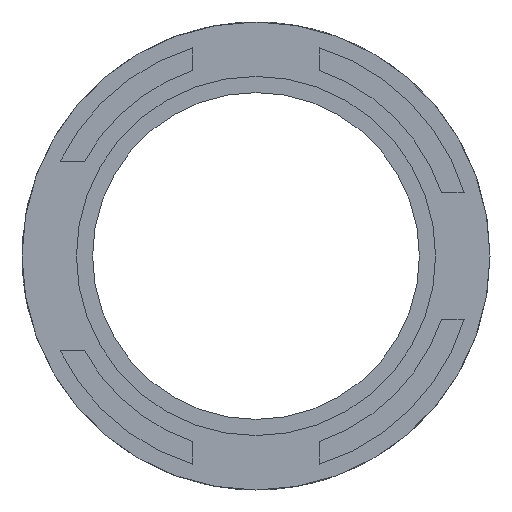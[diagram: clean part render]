
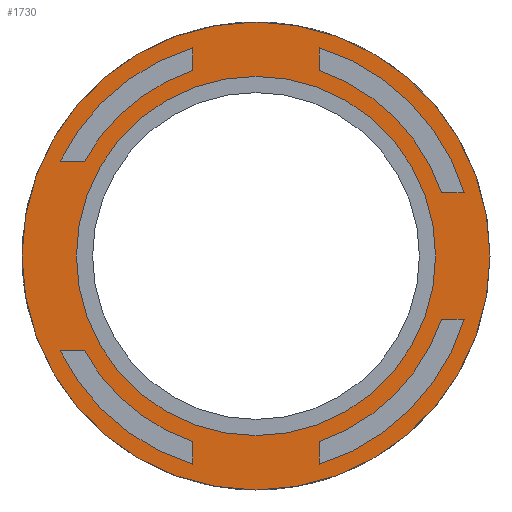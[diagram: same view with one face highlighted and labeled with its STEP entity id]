
A CAD part, left-side view. The second image highlights one B-rep face of the part: STEP entity #1730.
In plain terms, the highlighted planar face has unit normal (-1, 0, 0).
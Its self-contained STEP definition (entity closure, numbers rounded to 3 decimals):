
#48=CARTESIAN_POINT('',(0.,0.,0.));
#49=DIRECTION('',(-1.,0.,0.));
#50=DIRECTION('',(0.,1.,0.));
#51=AXIS2_PLACEMENT_3D('',#48,#49,#50);
#57=CARTESIAN_POINT('',(0.,0.,0.));
#58=DIRECTION('',(1.,0.,0.));
#59=DIRECTION('',(0.,1.,0.));
#60=AXIS2_PLACEMENT_3D('',#57,#58,#59);
#65=CARTESIAN_POINT('',(0.,0.,0.));
#66=DIRECTION('',(-1.,0.,0.));
#67=DIRECTION('',(0.,0.9,-0.436));
#68=AXIS2_PLACEMENT_3D('',#65,#66,#67);
#73=DIRECTION('',(0.,0.,1.));
#74=VECTOR('',#73,0.893);
#75=CARTESIAN_POINT('',(0.,2.5,-8.229));
#76=LINE('',#75,#74);
#80=CARTESIAN_POINT('',(0.,0.,0.));
#81=DIRECTION('',(-1.,0.,0.));
#82=DIRECTION('',(0.,0.875,-0.484));
#83=AXIS2_PLACEMENT_3D('',#80,#81,#82);
#88=DIRECTION('',(0.,1.,0.));
#89=VECTOR('',#88,0.957);
#90=CARTESIAN_POINT('',(0.,6.782,-3.75));
#91=LINE('',#90,#89);
#95=CARTESIAN_POINT('',(0.,0.,0.));
#96=DIRECTION('',(-1.,0.,0.));
#97=DIRECTION('',(0.,0.323,0.947));
#98=AXIS2_PLACEMENT_3D('',#95,#96,#97);
#103=DIRECTION('',(0.,0.,1.));
#104=VECTOR('',#103,0.893);
#105=CARTESIAN_POINT('',(0.,2.5,7.336));
#106=LINE('',#105,#104);
#110=CARTESIAN_POINT('',(0.,0.,0.));
#111=DIRECTION('',(-1.,0.,0.));
#112=DIRECTION('',(0.,0.291,0.957));
#113=AXIS2_PLACEMENT_3D('',#110,#111,#112);
#118=DIRECTION('',(0.,-1.,0.));
#119=VECTOR('',#118,0.957);
#120=CARTESIAN_POINT('',(0.,7.739,3.75));
#121=LINE('',#120,#119);
#125=CARTESIAN_POINT('',(0.,0.,0.));
#126=DIRECTION('',(-1.,0.,0.));
#127=DIRECTION('',(0.,-0.957,0.291));
#128=AXIS2_PLACEMENT_3D('',#125,#126,#127);
#133=DIRECTION('',(0.,0.,-1.));
#134=VECTOR('',#133,0.893);
#135=CARTESIAN_POINT('',(0.,-2.5,8.229));
#136=LINE('',#135,#134);
#140=CARTESIAN_POINT('',(0.,0.,0.));
#141=DIRECTION('',(-1.,0.,0.));
#142=DIRECTION('',(0.,-0.947,0.323));
#143=AXIS2_PLACEMENT_3D('',#140,#141,#142);
#148=DIRECTION('',(0.,-1.,0.));
#149=VECTOR('',#148,0.893);
#150=CARTESIAN_POINT('',(0.,-7.336,2.5));
#151=LINE('',#150,#149);
#155=CARTESIAN_POINT('',(0.,0.,0.));
#156=DIRECTION('',(-1.,0.,0.));
#157=DIRECTION('',(0.,-0.291,-0.957));
#158=AXIS2_PLACEMENT_3D('',#155,#156,#157);
#163=DIRECTION('',(0.,1.,0.));
#164=VECTOR('',#163,0.893);
#165=CARTESIAN_POINT('',(0.,-8.229,-2.5));
#166=LINE('',#165,#164);
#170=CARTESIAN_POINT('',(0.,0.,0.));
#171=DIRECTION('',(-1.,0.,0.));
#172=DIRECTION('',(0.,-0.323,-0.947));
#173=AXIS2_PLACEMENT_3D('',#170,#171,#172);
#178=DIRECTION('',(0.,0.,-1.));
#179=VECTOR('',#178,0.893);
#180=CARTESIAN_POINT('',(0.,-2.5,-7.336));
#181=LINE('',#180,#179);
#185=CARTESIAN_POINT('',(0.,0.,0.));
#186=DIRECTION('',(1.,0.,0.));
#187=DIRECTION('',(0.,1.,0.));
#188=AXIS2_PLACEMENT_3D('',#185,#186,#187);
#207=CARTESIAN_POINT('',(0.,0.,0.));
#208=DIRECTION('',(-1.,0.,0.));
#209=DIRECTION('',(0.,1.,0.));
#210=AXIS2_PLACEMENT_3D('',#207,#208,#209);
#1448=CARTESIAN_POINT('',(0.,-9.25,0.));
#1450=VERTEX_POINT('',#1448);
#1451=CARTESIAN_POINT('',(0.,9.25,0.));
#1452=VERTEX_POINT('',#1451);
#1453=CARTESIAN_POINT('',(0.,7.1,0.));
#1455=VERTEX_POINT('',#1453);
#1457=CARTESIAN_POINT('',(0.,-7.1,0.));
#1459=VERTEX_POINT('',#1457);
#1591=CARTESIAN_POINT('',(0.,7.739,-3.75));
#1592=CARTESIAN_POINT('',(0.,2.5,-8.229));
#1593=VERTEX_POINT('',#1591);
#1594=VERTEX_POINT('',#1592);
#1595=CARTESIAN_POINT('',(0.,6.782,-3.75));
#1596=VERTEX_POINT('',#1595);
#1597=CARTESIAN_POINT('',(0.,2.5,-7.336));
#1598=VERTEX_POINT('',#1597);
#1599=CARTESIAN_POINT('',(0.,2.5,7.336));
#1600=CARTESIAN_POINT('',(0.,6.782,3.75));
#1601=VERTEX_POINT('',#1599);
#1602=VERTEX_POINT('',#1600);
#1603=CARTESIAN_POINT('',(0.,7.739,3.75));
#1604=VERTEX_POINT('',#1603);
#1605=CARTESIAN_POINT('',(0.,2.5,8.229));
#1606=VERTEX_POINT('',#1605);
#1607=CARTESIAN_POINT('',(0.,-8.229,2.5));
#1608=CARTESIAN_POINT('',(0.,-2.5,8.229));
#1609=VERTEX_POINT('',#1607);
#1610=VERTEX_POINT('',#1608);
#1611=CARTESIAN_POINT('',(0.,-7.336,2.5));
#1612=CARTESIAN_POINT('',(0.,-2.5,7.336));
#1613=VERTEX_POINT('',#1611);
#1614=VERTEX_POINT('',#1612);
#1615=CARTESIAN_POINT('',(0.,-2.5,-8.229));
#1616=CARTESIAN_POINT('',(0.,-8.229,-2.5));
#1617=VERTEX_POINT('',#1615);
#1618=VERTEX_POINT('',#1616);
#1619=CARTESIAN_POINT('',(0.,-2.5,-7.336));
#1620=VERTEX_POINT('',#1619);
#1621=CARTESIAN_POINT('',(0.,-7.336,-2.5));
#1622=VERTEX_POINT('',#1621);
#1673=CARTESIAN_POINT('',(0.,0.,0.));
#1674=DIRECTION('',(1.,0.,0.));
#1675=DIRECTION('',(0.,-1.,0.));
#1676=AXIS2_PLACEMENT_3D('',#1673,#1674,#1675);
#1677=PLANE('',#1676);
#1679=ORIENTED_EDGE('',*,*,#1678,.F.);
#1681=ORIENTED_EDGE('',*,*,#1680,.T.);
#1682=EDGE_LOOP('',(#1679,#1681));
#1683=FACE_OUTER_BOUND('',#1682,.F.);
#1685=ORIENTED_EDGE('',*,*,#1684,.F.);
#1687=ORIENTED_EDGE('',*,*,#1686,.T.);
#1688=EDGE_LOOP('',(#1685,#1687));
#1689=FACE_BOUND('',#1688,.F.);
#1691=ORIENTED_EDGE('',*,*,#1690,.T.);
#1693=ORIENTED_EDGE('',*,*,#1692,.T.);
#1695=ORIENTED_EDGE('',*,*,#1694,.F.);
#1697=ORIENTED_EDGE('',*,*,#1696,.T.);
#1698=EDGE_LOOP('',(#1691,#1693,#1695,#1697));
#1699=FACE_BOUND('',#1698,.F.);
#1701=ORIENTED_EDGE('',*,*,#1700,.F.);
#1703=ORIENTED_EDGE('',*,*,#1702,.T.);
#1705=ORIENTED_EDGE('',*,*,#1704,.T.);
#1707=ORIENTED_EDGE('',*,*,#1706,.T.);
#1708=EDGE_LOOP('',(#1701,#1703,#1705,#1707));
#1709=FACE_BOUND('',#1708,.F.);
#1711=ORIENTED_EDGE('',*,*,#1710,.T.);
#1713=ORIENTED_EDGE('',*,*,#1712,.T.);
#1715=ORIENTED_EDGE('',*,*,#1714,.F.);
#1717=ORIENTED_EDGE('',*,*,#1716,.T.);
#1718=EDGE_LOOP('',(#1711,#1713,#1715,#1717));
#1719=FACE_BOUND('',#1718,.F.);
#1721=ORIENTED_EDGE('',*,*,#1720,.T.);
#1723=ORIENTED_EDGE('',*,*,#1722,.T.);
#1725=ORIENTED_EDGE('',*,*,#1724,.F.);
#1727=ORIENTED_EDGE('',*,*,#1726,.T.);
#1728=EDGE_LOOP('',(#1721,#1723,#1725,#1727));
#1729=FACE_BOUND('',#1728,.F.);
#52=CIRCLE('',#51,9.25);
#61=CIRCLE('',#60,9.25);
#69=CIRCLE('',#68,8.6);
#84=CIRCLE('',#83,7.75);
#99=CIRCLE('',#98,7.75);
#114=CIRCLE('',#113,8.6);
#129=CIRCLE('',#128,8.6);
#144=CIRCLE('',#143,7.75);
#159=CIRCLE('',#158,8.6);
#174=CIRCLE('',#173,7.75);
#189=CIRCLE('',#188,7.1);
#211=CIRCLE('',#210,7.1);
#1678=EDGE_CURVE('',#1452,#1450,#52,.T.);
#1680=EDGE_CURVE('',#1452,#1450,#61,.T.);
#1684=EDGE_CURVE('',#1455,#1459,#189,.T.);
#1686=EDGE_CURVE('',#1455,#1459,#211,.T.);
#1690=EDGE_CURVE('',#1593,#1594,#69,.T.);
#1692=EDGE_CURVE('',#1594,#1598,#76,.T.);
#1694=EDGE_CURVE('',#1596,#1598,#84,.T.);
#1696=EDGE_CURVE('',#1596,#1593,#91,.T.);
#1700=EDGE_CURVE('',#1601,#1602,#99,.T.);
#1702=EDGE_CURVE('',#1601,#1606,#106,.T.);
#1704=EDGE_CURVE('',#1606,#1604,#114,.T.);
#1706=EDGE_CURVE('',#1604,#1602,#121,.T.);
#1710=EDGE_CURVE('',#1609,#1610,#129,.T.);
#1712=EDGE_CURVE('',#1610,#1614,#136,.T.);
#1714=EDGE_CURVE('',#1613,#1614,#144,.T.);
#1716=EDGE_CURVE('',#1613,#1609,#151,.T.);
#1720=EDGE_CURVE('',#1617,#1618,#159,.T.);
#1722=EDGE_CURVE('',#1618,#1622,#166,.T.);
#1724=EDGE_CURVE('',#1620,#1622,#174,.T.);
#1726=EDGE_CURVE('',#1620,#1617,#181,.T.);
#1730=ADVANCED_FACE('',(#1683,#1689,#1699,#1709,#1719,#1729),#1677,.F.);
